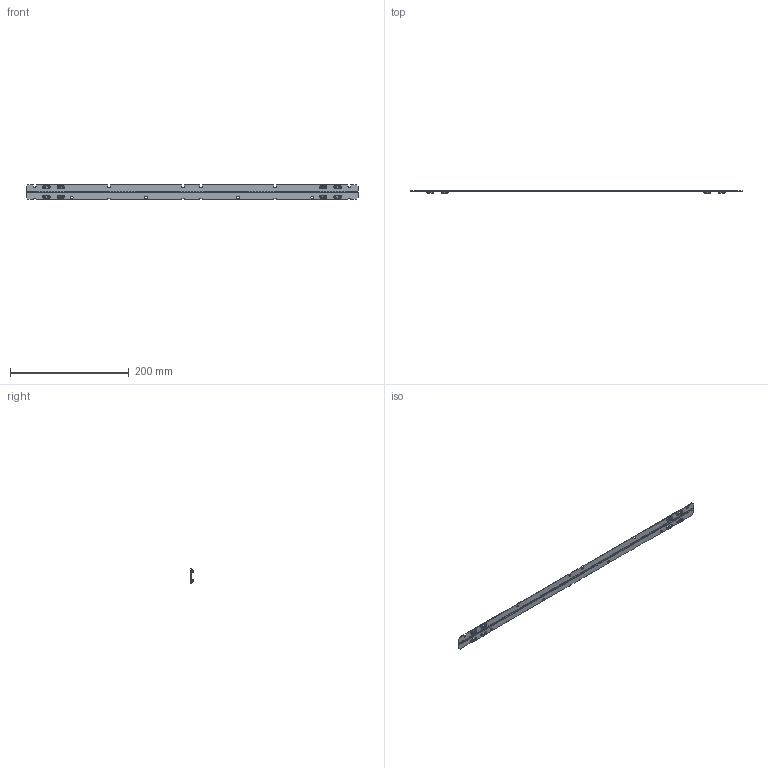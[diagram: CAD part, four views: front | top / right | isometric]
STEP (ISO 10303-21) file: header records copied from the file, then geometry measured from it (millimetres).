
FILE_DESCRIPTION(/* description */ ('Unknown'),/* implementation_level */ '2;1');
FILE_NAME(/* name */ 'LinLED 560x24mm 2x2000lm 827-865 2x4C 42V Opt G12',/* time_stamp */ '2020-06-30T11:38:11+02:00',/* author */ ('Unknown'),/* organization */ ('Unknown'),/* preprocessor_version */ 'ST-DEVELOPER v16.7',/* originating_system */ 'Solid Edge',/* authorisation */ 'Unknown');
FILE_SCHEMA (('AUTOMOTIVE_DESIGN { 1 0 10303 214 3 1 1 }','AUTOMOTIVE_DESIGN {1 0 10303 214 3 1 1}'));
Products named in the file (1): LinLED 560x24mm 2x2000lm 827-865 2x4C 42V Opt G12
Bounding box: 559.5 x 4.45 x 24 mm (x, y, z)
Volume: 14869.4 mm3; surface area: 30322.1 mm2
Topology: 1 solids, 1 shells, 3746 faces, 9736 edges, 6216 vertices
Faces by surface type: plane 2576, cylinder 530, bspline 416, cone 120, sphere 64, torus 40
Full cylindrical faces by diameter (mm): 4.3 x4
Entity records: 150241 total; most frequent: CARTESIAN_POINT 36711, ORIENTED_EDGE 19272, DIRECTION 15758, EDGE_CURVE 9636, LINE 7152, VECTOR 7152, VERTEX_POINT 6192, AXIS2_PLACEMENT_3D 4303
